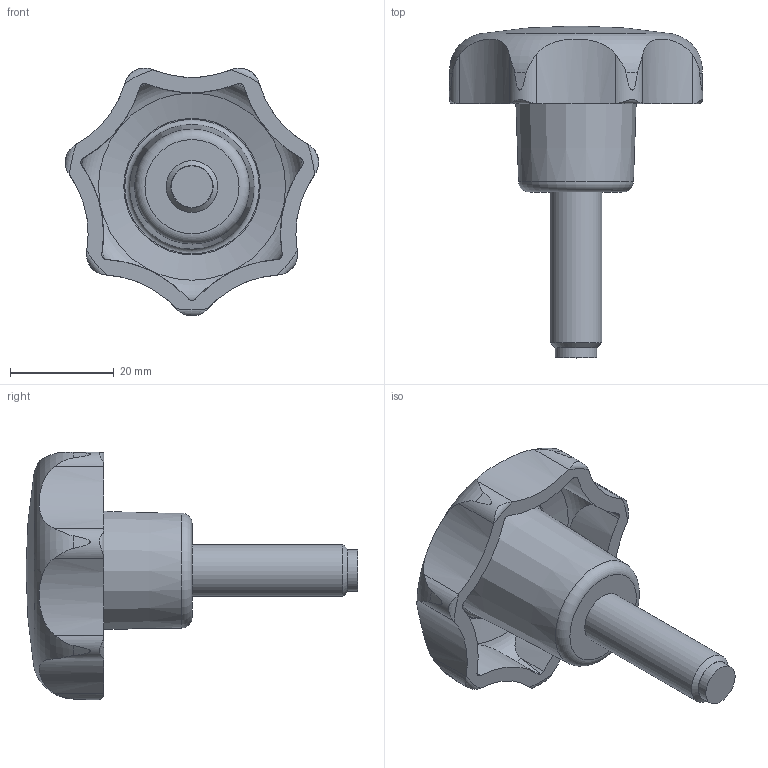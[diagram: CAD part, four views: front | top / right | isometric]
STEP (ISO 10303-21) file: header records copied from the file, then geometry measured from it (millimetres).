
FILE_DESCRIPTION( ( 'STEP AP203' ), '1' );
FILE_NAME( 'C:/Temp/Ganter_Step_05_03_2020/data/2_2/gn6336_10/Star knob GN 6336.10-50-M10-30-MS.stp', '2020-03-05T12:04:15', ( 'License CC BY-ND 4.0' ), ( 'CADENAS' ), ' ', 'PARTsolutions', ' ' );
FILE_SCHEMA( ( 'CONFIG_CONTROL_DESIGN' ) );
Length unit declared in the file: millimetre
Products named in the file (1): _Star knob GN 6336.10-50-M10-30-MS
Bounding box: 48.81 x 64 x 47.78 mm (x, y, z)
Volume: 23025.8 mm3; surface area: 9252.7 mm2
Topology: 1 solids, 1 shells, 64 faces, 189 edges, 129 vertices
Faces by surface type: cylinder 30, cone 17, torus 12, plane 4, sphere 1
Full cylindrical faces by diameter (mm): 8 x1, 10 x1
Entity records: 3108 total; most frequent: CARTESIAN_POINT 1546, ORIENTED_EDGE 346, DIRECTION 266, EDGE_CURVE 173, VERTEX_POINT 125, AXIS2_PLACEMENT_3D 119, B_SPLINE_CURVE_WITH_KNOTS 91, EDGE_LOOP 77
